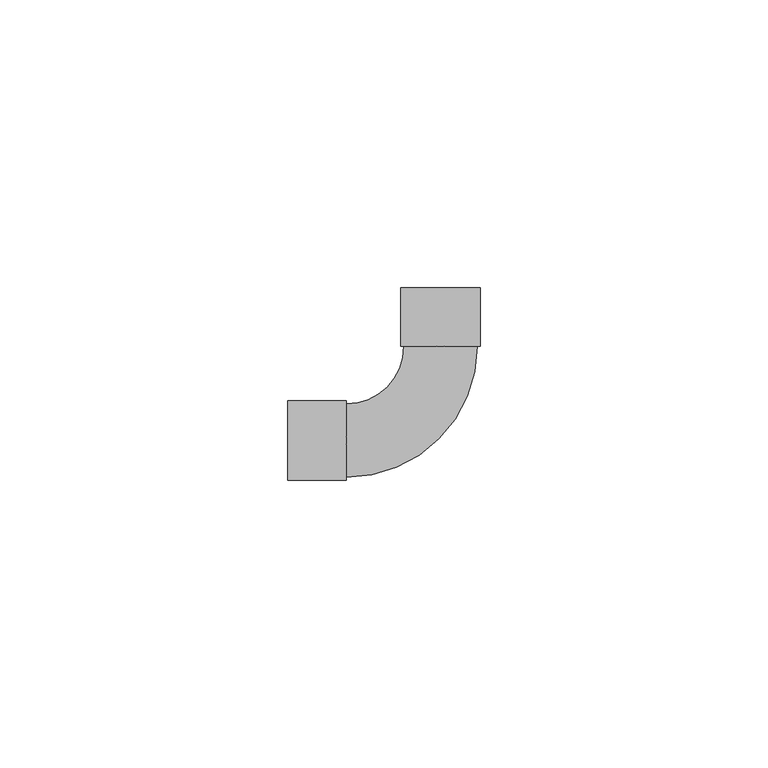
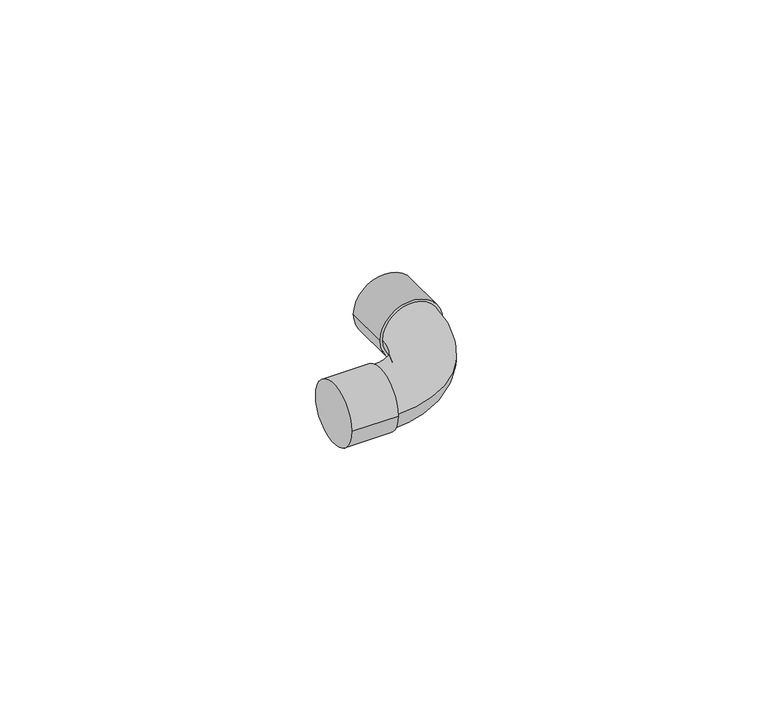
"""IFC4 building model written with IfcOpenShell, lengths in millimetres: pipe fitting geometry, Cotovelo - Soldado - CU : Padrão."""

from ifc_helpers import new_model, si_unit, point, frame, origin, place, context, project, spatial, circle_curve, ellipse_curve, trimmed, source, transform, mapped, element, save
from ifc_brep_helpers import plane_surface, cylinder_surface, revolved_surface, advanced_brep


def pipe_fitting_3e80353c(model_context):
    return source(origin(), model_context, "Body", "AdvancedBrep", [
        advanced_brep(
        [(-6.35, 16.337, 0.0), (-16.337, 6.35, 0.0), (-16.337, -6.35, 0.0), (6.35, 16.337, 0.0), (-26.506, -6.877, 0.0), (-26.506, 6.877, 0.0), (-16.337, -6.877, 0.0), (-16.337, 6.877, 0.0), (-6.877, 26.506, 0.0), (6.877, 26.506, 0.0), (-6.877, 16.337, 0.0), (6.877, 16.337, 0.0)],
        [
            (0, 1, circle_curve(frame((-16.337, 16.337, 0.0), z_axis=(0.0, 0.0, -1.0), x_axis=(0.0, -1.0, 0.0)), 9.987)),
            (1, 2, circle_curve(frame((-16.337, 0.0, 0.0), z_axis=(1.0, 0.0, 0.0), x_axis=(0.0, 1.0, 0.0)), 6.35)),
            (2, 3, circle_curve(frame((-16.337, 16.337, 0.0), z_axis=(0.0, 0.0, 1.0), x_axis=(0.0, -1.0, 0.0)), 22.687)),
            (3, 0, circle_curve(frame((0.0, 16.337, 0.0), z_axis=(0.0, -1.0, 0.0), x_axis=(-1.0, 0.0, 0.0)), 6.35)),
            (0, 3, circle_curve(frame((0.0, 16.337, 0.0), z_axis=(0.0, -1.0, 0.0), x_axis=(-1.0, 0.0, 0.0)), 6.35)),
            (2, 1, circle_curve(frame((-16.337, 0.0, 0.0), z_axis=(1.0, 0.0, 0.0), x_axis=(0.0, 1.0, 0.0)), 6.35)),
            (4, 5, circle_curve(frame((-26.506, 0.0, 0.0), z_axis=(-1.0, 0.0, 0.0), x_axis=(0.0, 1.0, 0.0)), 6.877)),
            (5, 4, circle_curve(frame((-26.506, 0.0, 0.0), z_axis=(-1.0, 0.0, 0.0), x_axis=(0.0, 1.0, 0.0)), 6.877)),
            (6, 7, circle_curve(frame((-16.337, 0.0, 0.0), z_axis=(1.0, 0.0, 0.0), x_axis=(0.0, 1.0, 0.0)), 6.877)),
            (7, 6, circle_curve(frame((-16.337, 0.0, 0.0), z_axis=(1.0, 0.0, 0.0), x_axis=(0.0, 1.0, 0.0)), 6.877)),
            (4, 6),
            (7, 5),
            (8, 9, circle_curve(frame((0.0, 26.506, 0.0), z_axis=(0.0, 1.0, 0.0), x_axis=(1.0, 0.0, 0.0)), 6.877)),
            (9, 8, circle_curve(frame((0.0, 26.506, 0.0), z_axis=(0.0, 1.0, 0.0), x_axis=(1.0, 0.0, 0.0)), 6.877)),
            (10, 11, circle_curve(frame((0.0, 16.337, 0.0), z_axis=(0.0, -1.0, 0.0), x_axis=(1.0, 0.0, 0.0)), 6.877)),
            (11, 10, circle_curve(frame((0.0, 16.337, 0.0), z_axis=(0.0, -1.0, 0.0), x_axis=(1.0, 0.0, 0.0)), 6.877)),
            (8, 10),
            (11, 9),
        ],
        [
            revolved_surface(trimmed(ellipse_curve(frame((-16.337, 0.0, 0.0), z_axis=(-1.0, 0.0, 0.0), x_axis=(0.0, 1.0, 0.0)), 6.35, 6.35), [point((-16.337, -6.35, 0.0))], [point((-16.337, 6.35, 0.0))], True, "CARTESIAN"), (-16.337, 16.337, 0.0), (0.0, 0.0, 1.0)),
            revolved_surface(trimmed(ellipse_curve(frame((-16.337, 0.0, 0.0), z_axis=(-1.0, 0.0, 0.0), x_axis=(0.0, 1.0, 0.0)), 6.35, 6.35), [point((-16.337, 6.35, 0.0))], [point((-16.337, -6.35, 0.0))], True, "CARTESIAN"), (-16.337, 16.337, 0.0), (0.0, 0.0, 1.0)),
            plane_surface(frame((-26.506, 0.0, 0.0), z_axis=(-1.0, 0.0, 0.0), x_axis=(0.0, 0.0, 1.0))),
            plane_surface(frame((-16.337, 0.0, 0.0), z_axis=(1.0, 0.0, 0.0), x_axis=(0.0, 0.0, 1.0))),
            cylinder_surface(frame((-26.506, 0.0, 0.0), z_axis=(-1.0, 0.0, 0.0), x_axis=(0.0, 1.0, 0.0)), 6.877),
            plane_surface(frame((0.0, 26.506, 0.0), z_axis=(0.0, 1.0, 0.0), x_axis=(0.0, 0.0, 1.0))),
            plane_surface(frame((0.0, 16.337, 0.0), z_axis=(0.0, -1.0, 0.0), x_axis=(0.0, 0.0, 1.0))),
            cylinder_surface(frame((0.0, 26.506, 0.0), z_axis=(0.0, 1.0, 0.0), x_axis=(1.0, 0.0, 0.0)), 6.877),
        ],
        [
            (0, [[1, 2, 3, 4]]),
            (1, [[-1, 5, -3, 6]]),
            (2, [[7, 8]]),
            (3, [[9, 10], [-2, -6]]),
            (4, [[-7, 11, -10, 12]]),
            (4, [[-8, -12, -9, -11]]),
            (5, [[13, 14]]),
            (6, [[15, 16], [-4, -5]]),
            (7, [[-13, 17, -16, 18]]),
            (7, [[-14, -18, -15, -17]]),
        ],
    ),
    ])


if __name__ == "__main__":
    model = new_model("IFC4")
    model_context = context("Model", 3, world=origin())
    ifc_project = project(units=[si_unit("LENGTHUNIT", "METRE", prefix="MILLI")], contexts=[model_context])
    site = spatial("IfcSite", under=ifc_project)
    building = spatial("IfcBuilding", under=site)
    placement = place(None, origin())
    pipe_fitting_shape = pipe_fitting_3e80353c(model_context)
    element("IfcPipeFitting", 1, ObjectType="Cotovelo - Soldado - CU : Padrão", at=placement, inside=building, context=model_context, shape_type="MappedRepresentation", body=[
        mapped(pipe_fitting_shape, transform((0.0, 0.0, 0.0), x_axis=(1.0, 0.0, 0.0), y_axis=(0.0, 1.0, 0.0), z_axis=(0.0, 0.0, 1.0))),
    ])
    save(model, "model.ifc")
